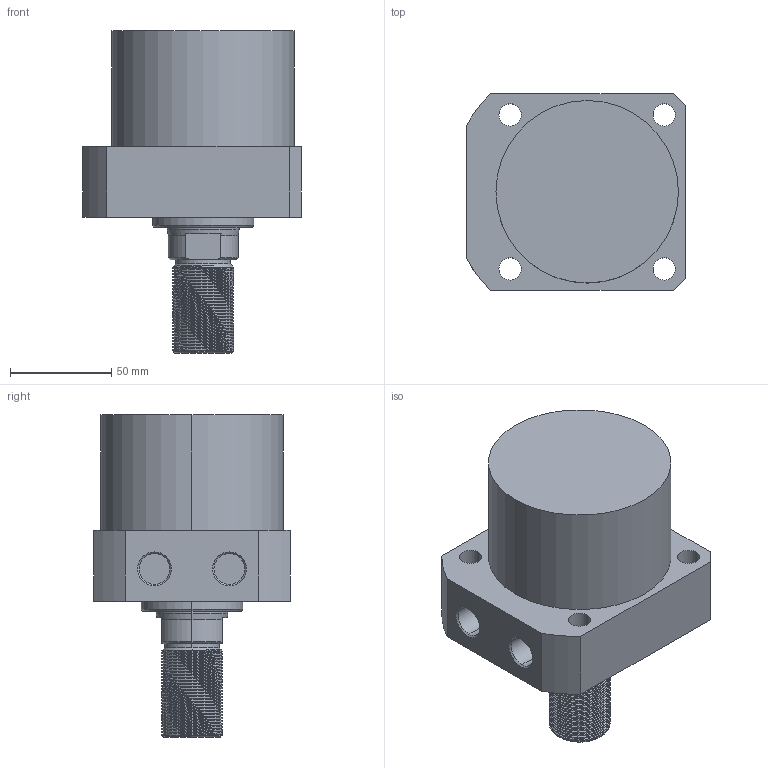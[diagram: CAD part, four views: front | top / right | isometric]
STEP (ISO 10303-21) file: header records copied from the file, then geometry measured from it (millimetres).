
FILE_DESCRIPTION (( 'STEP AP214' ), '1' );
FILE_NAME ('CLLR-090CT-035.STEP', '2020-01-09T06:30:31', ( 'Windows' ), ( 'Microsoft' ), 'SwSTEP 2.0', 'SolidWorks 2015', '' );
FILE_SCHEMA (( 'AUTOMOTIVE_DESIGN' ));
Length unit declared in the file: millimetre
Products named in the file (1): CLLR-090CT-035
Bounding box: 108 x 97 x 159 mm (x, y, z)
Volume: 755052.9 mm3; surface area: 65608.8 mm2
Topology: 1 solids, 1 shells, 124 faces, 329 edges, 215 vertices
Faces by surface type: cylinder 87, plane 20, cone 15, bspline 2
Entity records: 6957 total; most frequent: CARTESIAN_POINT 4131, ORIENTED_EDGE 658, DIRECTION 523, EDGE_CURVE 329, VERTEX_POINT 215, AXIS2_PLACEMENT_3D 200, EDGE_LOOP 140, FACE_OUTER_BOUND 124
